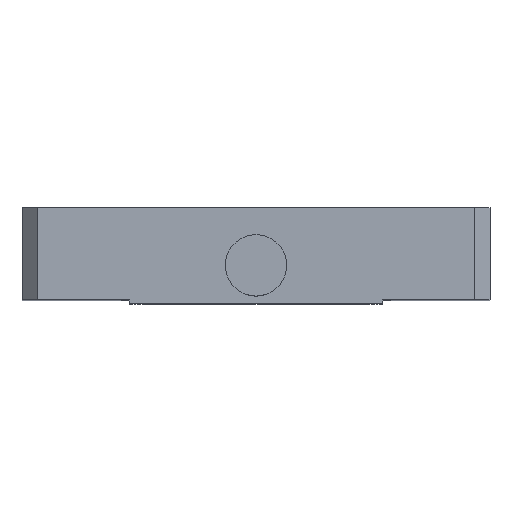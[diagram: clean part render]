
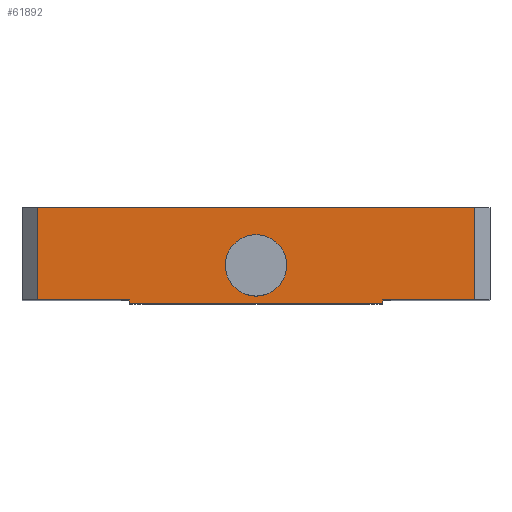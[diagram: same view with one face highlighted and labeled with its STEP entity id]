
A CAD part, top view. The second image highlights one B-rep face of the part: STEP entity #61892.
In plain terms, the highlighted planar face has unit normal (0, 0, 1).
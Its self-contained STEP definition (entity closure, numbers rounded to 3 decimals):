
#103 = DIRECTION ( 'NONE',  ( -1., 0., 0. ) ) ;
#421 = EDGE_CURVE ( 'NONE', #31084, #83310, #80787, .T. ) ;
#1090 = EDGE_CURVE ( 'NONE', #54695, #62330, #14689, .T. ) ;
#1755 = VECTOR ( 'NONE', #103, 1000. ) ;
#4147 = CIRCLE ( 'NONE', #74736, 4. ) ;
#4722 = VECTOR ( 'NONE', #46554, 1000. ) ;
#5570 = EDGE_CURVE ( 'NONE', #38709, #11838, #51462, .T. ) ;
#5964 = AXIS2_PLACEMENT_3D ( 'NONE', #39818, #79811, #40409 ) ;
#7927 = CARTESIAN_POINT ( 'NONE',  ( 28.5, 0.5, 20. ) ) ;
#8294 = LINE ( 'NONE', #24963, #60333 ) ;
#8481 = DIRECTION ( 'NONE',  ( 0., -1., 0. ) ) ;
#11479 = ORIENTED_EDGE ( 'NONE', *, *, #421, .T. ) ;
#11838 = VERTEX_POINT ( 'NONE', #29514 ) ;
#12798 = CARTESIAN_POINT ( 'NONE',  ( 28.5, 12.5, 20. ) ) ;
#13400 = LINE ( 'NONE', #70998, #71819 ) ;
#13680 = VECTOR ( 'NONE', #21112, 1000. ) ;
#13726 = EDGE_CURVE ( 'NONE', #23604, #11838, #13400, .T. ) ;
#14464 = CIRCLE ( 'NONE', #54285, 4. ) ;
#14689 = LINE ( 'NONE', #62617, #13680 ) ;
#15649 = DIRECTION ( 'NONE',  ( -1., 0., 0. ) ) ;
#15998 = VERTEX_POINT ( 'NONE', #79125 ) ;
#16215 = LINE ( 'NONE', #34975, #17334 ) ;
#16939 = ORIENTED_EDGE ( 'NONE', *, *, #1090, .T. ) ;
#17334 = VECTOR ( 'NONE', #8481, 1000. ) ;
#17613 = EDGE_CURVE ( 'NONE', #30589, #23604, #16215, .T. ) ;
#20962 = ORIENTED_EDGE ( 'NONE', *, *, #13726, .T. ) ;
#21112 = DIRECTION ( 'NONE',  ( 0., -1., 0. ) ) ;
#21126 = ORIENTED_EDGE ( 'NONE', *, *, #56242, .F. ) ;
#22213 = CARTESIAN_POINT ( 'NONE',  ( -16.5, 0.5, 20. ) ) ;
#23354 = ORIENTED_EDGE ( 'NONE', *, *, #33823, .T. ) ;
#23604 = VERTEX_POINT ( 'NONE', #43240 ) ;
#24666 = DIRECTION ( 'NONE',  ( 1., 0., 0. ) ) ;
#24806 = CARTESIAN_POINT ( 'NONE',  ( -28.5, 0.5, 20. ) ) ;
#24963 = CARTESIAN_POINT ( 'NONE',  ( -30.5, 12.5, 20. ) ) ;
#25070 = CARTESIAN_POINT ( 'NONE',  ( 0., 0.5, 20. ) ) ;
#28452 = CARTESIAN_POINT ( 'NONE',  ( 0., 5., 20. ) ) ;
#28474 = ORIENTED_EDGE ( 'NONE', *, *, #83775, .F. ) ;
#29514 = CARTESIAN_POINT ( 'NONE',  ( 16.5, 0., 20. ) ) ;
#30589 = VERTEX_POINT ( 'NONE', #22213 ) ;
#31084 = VERTEX_POINT ( 'NONE', #7927 ) ;
#32526 = CARTESIAN_POINT ( 'NONE',  ( 0., 5., 20. ) ) ;
#33823 = EDGE_CURVE ( 'NONE', #15998, #52136, #14464, .T. ) ;
#34975 = CARTESIAN_POINT ( 'NONE',  ( -16.5, 0.5, 20. ) ) ;
#36089 = CARTESIAN_POINT ( 'NONE',  ( 28.5, 12.5, 20. ) ) ;
#37037 = FACE_OUTER_BOUND ( 'NONE', #82850, .T. ) ;
#38709 = VERTEX_POINT ( 'NONE', #70896 ) ;
#39818 = CARTESIAN_POINT ( 'NONE',  ( -30.5, 12.5, 20. ) ) ;
#40344 = EDGE_CURVE ( 'NONE', #30589, #62330, #81442, .T. ) ;
#40409 = DIRECTION ( 'NONE',  ( -1., 0., 0. ) ) ;
#41689 = VECTOR ( 'NONE', #77463, 1000. ) ;
#43069 = EDGE_LOOP ( 'NONE', ( #52237, #23354 ) ) ;
#43240 = CARTESIAN_POINT ( 'NONE',  ( -16.5, 0., 20. ) ) ;
#43781 = ORIENTED_EDGE ( 'NONE', *, *, #5570, .F. ) ;
#45623 = DIRECTION ( 'NONE',  ( -1., 0., 0. ) ) ;
#46554 = DIRECTION ( 'NONE',  ( 0., -1., 0. ) ) ;
#50813 = FACE_BOUND ( 'NONE', #43069, .T. ) ;
#51462 = LINE ( 'NONE', #74105, #4722 ) ;
#52136 = VERTEX_POINT ( 'NONE', #57522 ) ;
#52237 = ORIENTED_EDGE ( 'NONE', *, *, #60911, .T. ) ;
#54285 = AXIS2_PLACEMENT_3D ( 'NONE', #28452, #75653, #15649 ) ;
#54695 = VERTEX_POINT ( 'NONE', #85227 ) ;
#56242 = EDGE_CURVE ( 'NONE', #54695, #83310, #8294, .T. ) ;
#57522 = CARTESIAN_POINT ( 'NONE',  ( 4., 5., 20. ) ) ;
#60117 = DIRECTION ( 'NONE',  ( 0., 0., -1. ) ) ;
#60333 = VECTOR ( 'NONE', #24666, 1000. ) ;
#60911 = EDGE_CURVE ( 'NONE', #52136, #15998, #4147, .T. ) ;
#60986 = ORIENTED_EDGE ( 'NONE', *, *, #40344, .F. ) ;
#61892 = ADVANCED_FACE ( 'NONE', ( #50813, #37037 ), #80414, .F. ) ;
#62330 = VERTEX_POINT ( 'NONE', #24806 ) ;
#62617 = CARTESIAN_POINT ( 'NONE',  ( -28.5, 12.5, 20. ) ) ;
#64861 = VECTOR ( 'NONE', #74280, 1000. ) ;
#70668 = CARTESIAN_POINT ( 'NONE',  ( 0., 0.5, 20. ) ) ;
#70896 = CARTESIAN_POINT ( 'NONE',  ( 16.5, 0.5, 20. ) ) ;
#70998 = CARTESIAN_POINT ( 'NONE',  ( -30.5, 0., 20. ) ) ;
#71819 = VECTOR ( 'NONE', #72433, 1000. ) ;
#72433 = DIRECTION ( 'NONE',  ( 1., 0., 0. ) ) ;
#74105 = CARTESIAN_POINT ( 'NONE',  ( 16.5, 0.5, 20. ) ) ;
#74280 = DIRECTION ( 'NONE',  ( 0., 1., 0. ) ) ;
#74736 = AXIS2_PLACEMENT_3D ( 'NONE', #32526, #60117, #45623 ) ;
#75653 = DIRECTION ( 'NONE',  ( 0., 0., -1. ) ) ;
#77300 = ORIENTED_EDGE ( 'NONE', *, *, #17613, .T. ) ;
#77463 = DIRECTION ( 'NONE',  ( -1., 0., 0. ) ) ;
#79125 = CARTESIAN_POINT ( 'NONE',  ( -4., 5., 20. ) ) ;
#79811 = DIRECTION ( 'NONE',  ( 0., 0., -1. ) ) ;
#79932 = LINE ( 'NONE', #70668, #41689 ) ;
#80414 = PLANE ( 'NONE',  #5964 ) ;
#80787 = LINE ( 'NONE', #12798, #64861 ) ;
#81442 = LINE ( 'NONE', #25070, #1755 ) ;
#82850 = EDGE_LOOP ( 'NONE', ( #60986, #77300, #20962, #43781, #28474, #11479, #21126, #16939 ) ) ;
#83310 = VERTEX_POINT ( 'NONE', #36089 ) ;
#83775 = EDGE_CURVE ( 'NONE', #31084, #38709, #79932, .T. ) ;
#85227 = CARTESIAN_POINT ( 'NONE',  ( -28.5, 12.5, 20. ) ) ;
